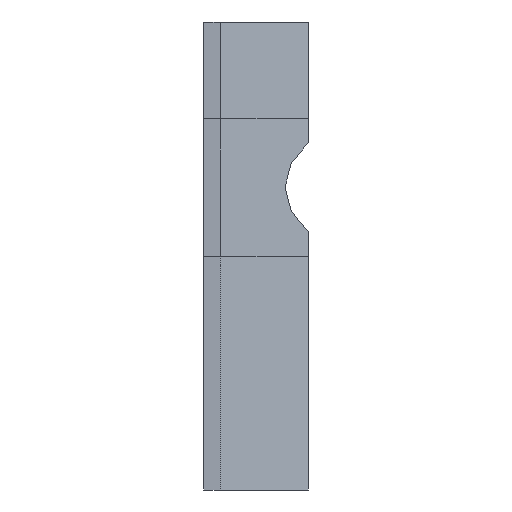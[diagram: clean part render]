
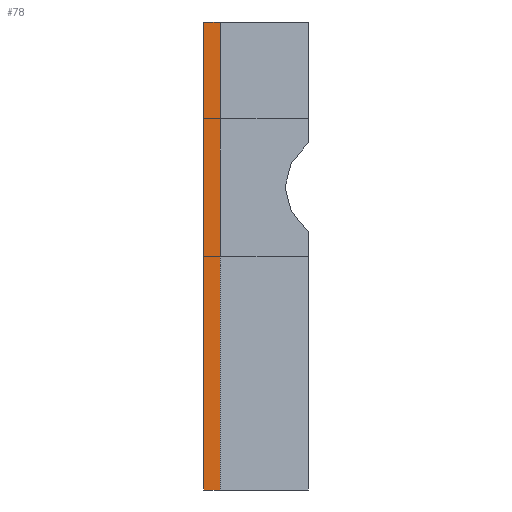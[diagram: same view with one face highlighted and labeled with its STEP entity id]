
A CAD part, left-side view. The second image highlights one B-rep face of the part: STEP entity #78.
In plain terms, the highlighted planar face has unit normal (-1, 0, 0) as drawn and (1, 0, 0) by its records, which use the part's own axes.
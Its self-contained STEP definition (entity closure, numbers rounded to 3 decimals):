
#78=ADVANCED_FACE('',(#117),#1461,.T.);
#117=FACE_OUTER_BOUND('',#157,.T.);
#157=EDGE_LOOP('',(#274,#275,#276,#277));
#274=ORIENTED_EDGE('',*,*,#1015,.T.);
#275=ORIENTED_EDGE('',*,*,#1016,.T.);
#276=ORIENTED_EDGE('',*,*,#1017,.T.);
#277=ORIENTED_EDGE('',*,*,#1013,.F.);
#511=PCURVE('',#1460,#727);
#514=PCURVE('',#1461,#730);
#515=PCURVE('',#1461,#731);
#516=PCURVE('',#1461,#732);
#517=PCURVE('',#1461,#733);
#521=PCURVE('',#1462,#737);
#535=PCURVE('',#1465,#751);
#544=PCURVE('',#1466,#760);
#727=DEFINITIONAL_REPRESENTATION('',(#1202),#2965);
#730=DEFINITIONAL_REPRESENTATION('',(#1207),#2965);
#731=DEFINITIONAL_REPRESENTATION('',(#1209),#2965);
#732=DEFINITIONAL_REPRESENTATION('',(#1211),#2965);
#733=DEFINITIONAL_REPRESENTATION('',(#1212),#2965);
#737=DEFINITIONAL_REPRESENTATION('',(#1219),#2965);
#751=DEFINITIONAL_REPRESENTATION('',(#1238),#2965);
#760=DEFINITIONAL_REPRESENTATION('',(#1248),#2965);
#905=SURFACE_CURVE('',#1201,(#511,#517),.PCURVE_S1.);
#907=SURFACE_CURVE('',#1206,(#514,#535),.PCURVE_S1.);
#908=SURFACE_CURVE('',#1208,(#515,#521),.PCURVE_S1.);
#909=SURFACE_CURVE('',#1210,(#516,#544),.PCURVE_S1.);
#1013=EDGE_CURVE('',#1401,#1402,#905,.T.);
#1015=EDGE_CURVE('',#1401,#1403,#907,.T.);
#1016=EDGE_CURVE('',#1403,#1404,#908,.T.);
#1017=EDGE_CURVE('',#1404,#1402,#909,.T.);
#1201=B_SPLINE_CURVE_WITH_KNOTS('',1,(#2263,#2264),.UNSPECIFIED.,.F.,.F.,
(2,2),(0.,17.),.UNSPECIFIED.);
#1202=B_SPLINE_CURVE_WITH_KNOTS('',1,(#2265,#2266),.UNSPECIFIED.,.F.,.F.,
(2,2),(0.,17.),.UNSPECIFIED.);
#1206=B_SPLINE_CURVE_WITH_KNOTS('',1,(#2273,#2274),.UNSPECIFIED.,.F.,.F.,
(2,2),(8.975,9.575),.UNSPECIFIED.);
#1207=B_SPLINE_CURVE_WITH_KNOTS('',1,(#2275,#2276),.UNSPECIFIED.,.F.,.F.,
(2,2),(8.975,9.575),.UNSPECIFIED.);
#1208=B_SPLINE_CURVE_WITH_KNOTS('',1,(#2277,#2278),.UNSPECIFIED.,.F.,.F.,
(2,2),(0.,17.),.UNSPECIFIED.);
#1209=B_SPLINE_CURVE_WITH_KNOTS('',1,(#2279,#2280),.UNSPECIFIED.,.F.,.F.,
(2,2),(0.,17.),.UNSPECIFIED.);
#1210=B_SPLINE_CURVE_WITH_KNOTS('',1,(#2281,#2282),.UNSPECIFIED.,.F.,.F.,
(2,2),(-9.575,-8.975),.UNSPECIFIED.);
#1211=B_SPLINE_CURVE_WITH_KNOTS('',1,(#2283,#2284),.UNSPECIFIED.,.F.,.F.,
(2,2),(-9.575,-8.975),.UNSPECIFIED.);
#1212=B_SPLINE_CURVE_WITH_KNOTS('',1,(#2285,#2286),.UNSPECIFIED.,.F.,.F.,
(2,2),(0.,17.),.UNSPECIFIED.);
#1219=B_SPLINE_CURVE_WITH_KNOTS('',1,(#2299,#2300),.UNSPECIFIED.,.F.,.F.,
(2,2),(0.,17.),.UNSPECIFIED.);
#1238=B_SPLINE_CURVE_WITH_KNOTS('',1,(#2393,#2394),.UNSPECIFIED.,.F.,.F.,
(2,2),(8.975,9.575),.UNSPECIFIED.);
#1248=B_SPLINE_CURVE_WITH_KNOTS('',1,(#2413,#2414),.UNSPECIFIED.,.F.,.F.,
(2,2),(-9.575,-8.975),.UNSPECIFIED.);
#1401=VERTEX_POINT('',#2107);
#1402=VERTEX_POINT('',#2108);
#1403=VERTEX_POINT('',#2109);
#1404=VERTEX_POINT('',#2110);
#1460=PLANE('',#1535);
#1461=PLANE('',#1536);
#1462=PLANE('',#1537);
#1465=PLANE('',#1540);
#1466=PLANE('',#1541);
#1535=AXIS2_PLACEMENT_3D('',#2056,#1575,$);
#1536=AXIS2_PLACEMENT_3D('',#2057,#1576,$);
#1537=AXIS2_PLACEMENT_3D('',#2058,#1577,$);
#1540=AXIS2_PLACEMENT_3D('',#2097,#1580,$);
#1541=AXIS2_PLACEMENT_3D('',#2098,#1581,$);
#1575=DIRECTION('',(0.,-1.,0.));
#1576=DIRECTION('',(1.,0.,0.));
#1577=DIRECTION('',(0.,-1.,0.));
#1580=DIRECTION('',(0.,0.,1.));
#1581=DIRECTION('',(0.,0.,-1.));
#2056=CARTESIAN_POINT('',(-844.15,-547.,78.));
#2057=CARTESIAN_POINT('',(-842.9,-547.,78.));
#2058=CARTESIAN_POINT('',(-842.9,-546.4,78.));
#2097=CARTESIAN_POINT('',(-845.188,-550.675,78.));
#2098=CARTESIAN_POINT('',(-845.188,-550.675,95.));
#2107=CARTESIAN_POINT('',(-842.9,-547.,78.));
#2108=CARTESIAN_POINT('',(-842.9,-547.,95.));
#2109=CARTESIAN_POINT('',(-842.9,-546.4,78.));
#2110=CARTESIAN_POINT('',(-842.9,-546.4,95.));
#2263=CARTESIAN_POINT('',(-842.9,-547.,78.));
#2264=CARTESIAN_POINT('',(-842.9,-547.,95.));
#2265=CARTESIAN_POINT('',(8.975,0.));
#2266=CARTESIAN_POINT('',(8.975,17.));
#2273=CARTESIAN_POINT('',(-842.9,-547.,78.));
#2274=CARTESIAN_POINT('',(-842.9,-546.4,78.));
#2275=CARTESIAN_POINT('',(8.975,0.));
#2276=CARTESIAN_POINT('',(9.575,0.));
#2277=CARTESIAN_POINT('',(-842.9,-546.4,78.));
#2278=CARTESIAN_POINT('',(-842.9,-546.4,95.));
#2279=CARTESIAN_POINT('',(9.575,0.));
#2280=CARTESIAN_POINT('',(9.575,17.));
#2281=CARTESIAN_POINT('',(-842.9,-546.4,95.));
#2282=CARTESIAN_POINT('',(-842.9,-547.,95.));
#2283=CARTESIAN_POINT('',(9.575,17.));
#2284=CARTESIAN_POINT('',(8.975,17.));
#2285=CARTESIAN_POINT('',(8.975,0.));
#2286=CARTESIAN_POINT('',(8.975,17.));
#2299=CARTESIAN_POINT('',(9.575,0.));
#2300=CARTESIAN_POINT('',(9.575,17.));
#2393=CARTESIAN_POINT('',(-7.05,0.));
#2394=CARTESIAN_POINT('',(-7.05,0.6));
#2413=CARTESIAN_POINT('',(0.6,-7.05));
#2414=CARTESIAN_POINT('',(0.,-7.05));
#2965=(
GEOMETRIC_REPRESENTATION_CONTEXT(2)
PARAMETRIC_REPRESENTATION_CONTEXT()
REPRESENTATION_CONTEXT('pspace','')
);
